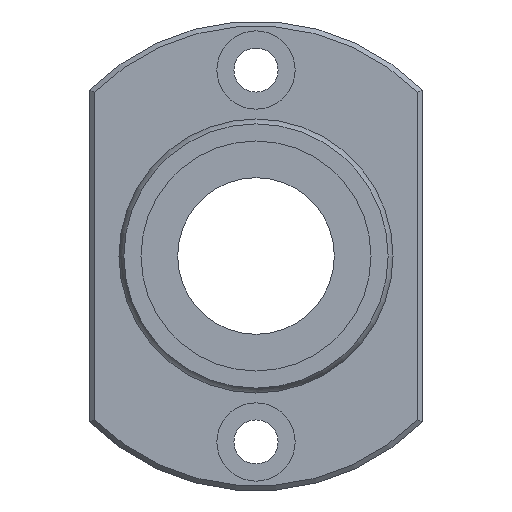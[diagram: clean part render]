
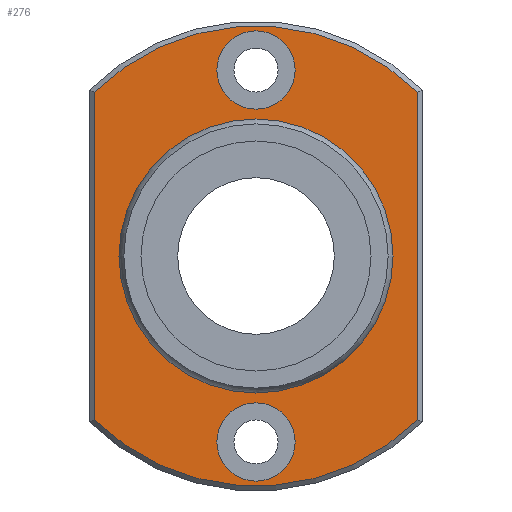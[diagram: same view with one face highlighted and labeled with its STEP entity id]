
A CAD part, left-side view. The second image highlights one B-rep face of the part: STEP entity #276.
In plain terms, the highlighted planar face has unit normal (-1, 0, 0).
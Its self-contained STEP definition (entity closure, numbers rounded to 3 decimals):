
#59=CARTESIAN_POINT('',(31.,-16.5,16.733));
#60=VERTEX_POINT('',#59);
#68=CARTESIAN_POINT('',(31.,-16.5,-16.733));
#69=VERTEX_POINT('',#68);
#70=CARTESIAN_POINT('',(31.,-16.5,16.733));
#71=DIRECTION('',(0.0,0.0,-1.0));
#72=VECTOR('',#71,33.466);
#73=LINE('',#70,#72);
#74=EDGE_CURVE('',#60,#69,#73,.T.);
#101=CARTESIAN_POINT('',(31.,16.5,-16.733));
#102=VERTEX_POINT('',#101);
#103=CARTESIAN_POINT('',(31.,0.0,0.0));
#104=DIRECTION('',(1.0,0.0,0.0));
#105=DIRECTION('',(0.0,0.0,-1.0));
#106=AXIS2_PLACEMENT_3D('',#103,#104,#105);
#107=CIRCLE('',#106,23.5);
#108=EDGE_CURVE('',#69,#102,#107,.T.);
#134=CARTESIAN_POINT('',(31.,16.5,16.733));
#135=VERTEX_POINT('',#134);
#136=CARTESIAN_POINT('',(31.,16.5,-16.733));
#137=DIRECTION('',(0.0,0.0,1.0));
#138=VECTOR('',#137,33.466);
#139=LINE('',#136,#138);
#140=EDGE_CURVE('',#102,#135,#139,.T.);
#165=CARTESIAN_POINT('',(31.,0.0,0.0));
#166=DIRECTION('',(1.0,0.0,0.0));
#167=DIRECTION('',(0.0,0.0,1.0));
#168=AXIS2_PLACEMENT_3D('',#165,#166,#167);
#169=CIRCLE('',#168,23.5);
#170=EDGE_CURVE('',#135,#60,#169,.T.);
#232=CARTESIAN_POINT('',(31.,0.0,18.887));
#233=DIRECTION('',(-1.0,0.0,0.0));
#234=DIRECTION('',(0.0,0.0,1.0));
#235=AXIS2_PLACEMENT_3D('',#232,#233,#234);
#236=PLANE('',#235);
#237=ORIENTED_EDGE('',*,*,#74,.F.);
#238=ORIENTED_EDGE('',*,*,#170,.F.);
#239=ORIENTED_EDGE('',*,*,#140,.F.);
#240=ORIENTED_EDGE('',*,*,#108,.F.);
#241=EDGE_LOOP('',(#237,#238,#239,#240));
#242=FACE_OUTER_BOUND('',#241,.T.);
#243=CARTESIAN_POINT('',(31.,0.0,13.773));
#244=VERTEX_POINT('',#243);
#245=CARTESIAN_POINT('',(31.,0.0,0.0));
#246=DIRECTION('',(-1.0,0.0,0.0));
#247=DIRECTION('',(0.0,0.0,1.0));
#248=AXIS2_PLACEMENT_3D('',#245,#246,#247);
#249=CIRCLE('',#248,13.773);
#250=EDGE_CURVE('',#244,#244,#249,.T.);
#251=ORIENTED_EDGE('',*,*,#250,.F.);
#252=EDGE_LOOP('',(#251));
#253=FACE_BOUND('',#252,.T.);
#254=CARTESIAN_POINT('',(31.0,4.,-19.0));
#255=VERTEX_POINT('',#254);
#256=CARTESIAN_POINT('',(31.,0.,-19.0));
#257=DIRECTION('',(1.0,0.0,0.0));
#258=DIRECTION('',(0.0,1.0,0.0));
#259=AXIS2_PLACEMENT_3D('',#256,#257,#258);
#260=CIRCLE('',#259,4.0);
#261=EDGE_CURVE('',#255,#255,#260,.T.);
#262=ORIENTED_EDGE('',*,*,#261,.T.);
#263=EDGE_LOOP('',(#262));
#264=FACE_BOUND('',#263,.T.);
#265=CARTESIAN_POINT('',(31.0,4.,19.0));
#266=VERTEX_POINT('',#265);
#267=CARTESIAN_POINT('',(31.,0.,19.0));
#268=DIRECTION('',(1.0,0.0,0.0));
#269=DIRECTION('',(0.0,1.0,0.0));
#270=AXIS2_PLACEMENT_3D('',#267,#268,#269);
#271=CIRCLE('',#270,4.0);
#272=EDGE_CURVE('',#266,#266,#271,.T.);
#273=ORIENTED_EDGE('',*,*,#272,.T.);
#274=EDGE_LOOP('',(#273));
#275=FACE_BOUND('',#274,.T.);
#276=ADVANCED_FACE('',(#242,#253,#264,#275),#236,.T.);
